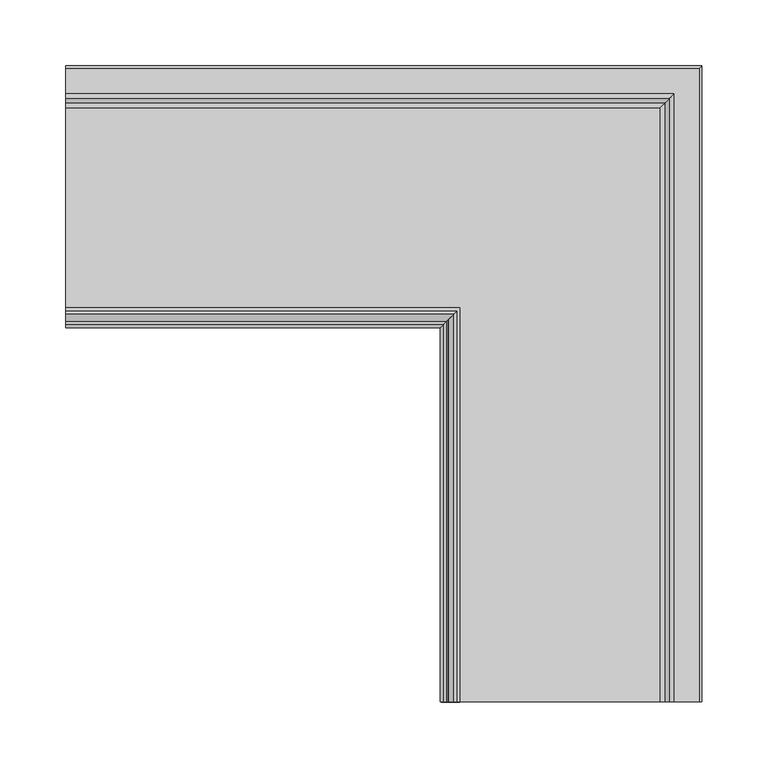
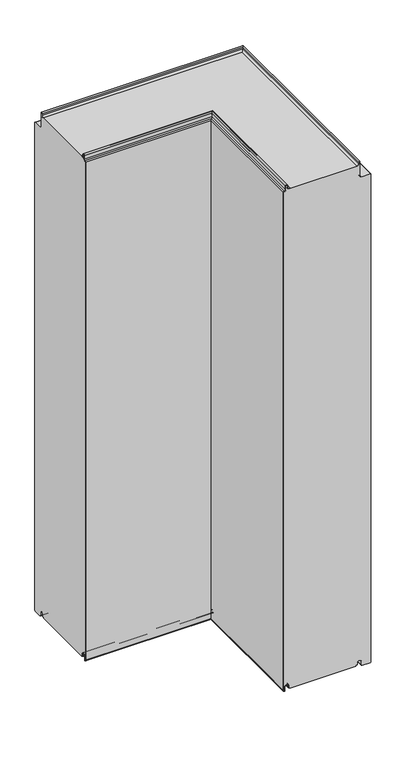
"""IFC4 building model written with IfcOpenShell, lengths in millimetres: plate geometry, Угловой модуль Fronttop : Угловой модуль Fronttop 200/1200."""

from ifc_helpers import new_model, si_unit, frame, origin, place, context, project, spatial, polyline, circle_curve, ellipse_curve, source, transform, mapped, element, save
from ifc_brep_helpers import plane_surface, cylinder_surface, revolved_surface, advanced_brep


def plate_f44200e2(model_context):
    return source(origin(), model_context, "Body", "AdvancedBrep", [
        advanced_brep(
        [(-234.5, 15.0, 3.0), (-234.5, 13.0, 3.0), (-234.5, 12.0, 4.0), (-234.5, 12.0, 8.0), (-234.5, 3.0, 8.0), (-234.5, 3.0, -0.5), (-234.5, 1.0, -0.5), (-234.5, 1.0, 1195.0278643), (-234.5, 2.1111111, 1196.0216723), (-234.5, 6.0, 1199.5), (-234.5, 6.0, 1208.0), (-234.5, 9.0, 1208.0), (-234.5, 9.0, 1204.0), (-234.5, 13.0, 1200.0), (-234.5, 167.0, 1200.0), (-234.5, 171.0, 1204.0), (-234.5, 171.0, 1208.0), (-234.5, 174.0, 1208.0), (-234.5, 174.0, 1175.0), (-234.5, 178.0, 1171.0), (-234.5, 197.0, 1171.0), (-234.5, 199.0, 1169.0), (-234.5, 199.0, 0.0), (-234.5, 197.0, -2.0), (-234.5, 179.0, -2.0), (-234.5, 177.0, 0.0), (-234.5, 177.0, 8.0), (-234.5, 168.0, 8.0), (-234.5, 168.0, 4.0), (-234.5, 167.0, 3.0), (-234.5, 165.0, 3.0), (-234.5, 165.0, 0.0), (-234.5, 15.0, 0.0), (65.0, 15.0, 0.0), (65.0, 15.0, 3.0), (215.0, 165.0, 0.0), (215.0, -284.5, 0.0), (65.0, -284.5, 0.0), (215.0, 165.0, 3.0), (217.0, 167.0, 3.0), (217.0, -284.5, 3.0), (215.0, -284.5, 3.0), (218.0, 168.0, 4.0), (218.0, 168.0, 8.0), (227.0, 177.0, 8.0), (227.0, 177.0, 0.0), (229.0, 179.0, -2.0), (247.0, 197.0, -2.0), (247.0, -284.5, -2.0), (229.0, -284.5, -2.0), (249.0, 199.0, 0.0), (249.0, 199.0, 1169.0), (247.0, 197.0, 1171.0), (228.0, 178.0, 1171.0), (228.0, -284.5, 1171.0), (247.0, -284.5, 1171.0), (224.0, 174.0, 1175.0), (224.0, 174.0, 1208.0), (221.0, 171.0, 1208.0), (221.0, 171.0, 1204.0), (217.0, 167.0, 1200.0), (63.0, 13.0, 1200.0), (63.0, -284.5, 1200.0), (217.0, -284.5, 1200.0), (59.0, 9.0, 1204.0), (59.0, 9.0, 1208.0), (56.0, 6.0, 1208.0), (56.0, 6.0, 1199.5), (52.1111111, 2.1111111, 1196.021672), (51.0, 1.0, 1195.0278643), (51.0, 1.0, -0.5), (53.0, 3.0, -0.5), (53.0, 3.0, 8.0), (62.0, 12.0, 8.0), (62.0, 12.0, 4.0), (63.0, 13.0, 3.0), (65.0, -284.5, 3.0), (63.0, -284.5, 3.0), (218.0, -284.5, 4.0), (218.0, -284.5, 8.0), (227.0, -284.5, 8.0), (227.0, -284.5, 0.0), (249.0, -284.5, 0.0), (249.0, -284.5, 1169.0), (224.0, -284.5, 1175.0), (224.0, -284.5, 1208.0), (221.0, -284.5, 1208.0), (221.0, -284.5, 1204.0), (59.0, -284.5, 1204.0), (59.0, -284.5, 1208.0), (56.0, -284.5, 1208.0), (56.0, -284.5, 1199.5), (52.1111111, -284.5, 1196.021672), (51.0, -284.5, 1195.0278643), (51.0, -284.5, -0.5), (53.0, -284.5, -0.5), (53.0, -284.5, 8.0), (62.0, -284.5, 8.0), (62.0, -284.5, 4.0)],
        [
            (0, 1),
            (1, 2, circle_curve(frame((-234.5, 13.0, 4.0), z_axis=(-1.0, 0.0, 0.0), x_axis=(0.0, -1.0, 0.0)), 1.0)),
            (2, 3),
            (3, 4, circle_curve(frame((-234.5, 7.5, 8.0), z_axis=(1.0, 0.0, 0.0), x_axis=(0.0, -1.0, 0.0)), 4.5)),
            (4, 5),
            (5, 6, circle_curve(frame((-234.5, 2.0, -0.5), z_axis=(-1.0, 0.0, 0.0), x_axis=(0.0, -1.0, 0.0)), 1.0)),
            (6, 7),
            (7, 8, circle_curve(frame((-234.5, 2.0, 1195.0278643), z_axis=(-1.0, 0.0, 0.0), x_axis=(0.0, -1.0, 0.0)), 1.0)),
            (8, 9, circle_curve(frame((-234.5, 2.5, 1199.5), z_axis=(1.0, 0.0, 0.0), x_axis=(0.0, -1.0, 0.0)), 3.5)),
            (9, 10),
            (10, 11, circle_curve(frame((-234.5, 7.5, 1208.0), z_axis=(-1.0, 0.0, 0.0), x_axis=(0.0, -1.0, 0.0)), 1.5)),
            (11, 12),
            (12, 13, circle_curve(frame((-234.5, 13.0, 1204.0), z_axis=(1.0, 0.0, 0.0), x_axis=(0.0, -1.0, 0.0)), 4.0)),
            (13, 14),
            (14, 15, circle_curve(frame((-234.5, 167.0, 1204.0), z_axis=(1.0, 0.0, 0.0), x_axis=(0.0, -1.0, 0.0)), 4.0)),
            (15, 16),
            (16, 17, circle_curve(frame((-234.5, 172.5, 1208.0), z_axis=(-1.0, 0.0, 0.0), x_axis=(0.0, -1.0, 0.0)), 1.5)),
            (17, 18),
            (18, 19, circle_curve(frame((-234.5, 178.0, 1175.0), z_axis=(1.0, 0.0, 0.0), x_axis=(0.0, -1.0, 0.0)), 4.0)),
            (19, 20),
            (20, 21, circle_curve(frame((-234.5, 197.0, 1169.0), z_axis=(-1.0, 0.0, 0.0), x_axis=(0.0, -1.0, 0.0)), 2.0)),
            (21, 22),
            (22, 23, circle_curve(frame((-234.5, 197.0, 0.0), z_axis=(-1.0, 0.0, 0.0), x_axis=(0.0, -1.0, 0.0)), 2.0)),
            (23, 24),
            (24, 25, circle_curve(frame((-234.5, 179.0, 0.0), z_axis=(-1.0, 0.0, 0.0), x_axis=(0.0, -1.0, 0.0)), 2.0)),
            (25, 26),
            (26, 27, circle_curve(frame((-234.5, 172.5, 8.0), z_axis=(1.0, 0.0, 0.0), x_axis=(0.0, -1.0, 0.0)), 4.5)),
            (27, 28),
            (28, 29, circle_curve(frame((-234.5, 167.0, 4.0), z_axis=(-1.0, 0.0, 0.0), x_axis=(0.0, -1.0, 0.0)), 1.0)),
            (29, 30),
            (30, 31),
            (31, 32),
            (32, 0),
            (32, 33),
            (33, 34),
            (34, 0),
            (31, 35),
            (35, 36),
            (36, 37),
            (37, 33),
            (30, 38),
            (38, 35),
            (29, 39),
            (39, 40),
            (40, 41),
            (41, 38),
            (28, 42),
            (42, 39, ellipse_curve(frame((217.0, 167.0, 4.0), z_axis=(-0.7071067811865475, 0.7071067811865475, 0.0), x_axis=(-0.7071067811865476, -0.7071067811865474, 0.0)), 1.4142136, 1.0)),
            (27, 43),
            (43, 42),
            (26, 44),
            (44, 43, ellipse_curve(frame((222.5, 172.5, 8.0), z_axis=(0.7071067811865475, -0.7071067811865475, 0.0), x_axis=(0.7071067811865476, 0.7071067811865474, 0.0)), 6.363961, 4.5)),
            (25, 45),
            (45, 44),
            (24, 46),
            (46, 45, ellipse_curve(frame((229.0, 179.0, 0.0), z_axis=(-0.7071067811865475, 0.7071067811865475, 0.0), x_axis=(-0.7071067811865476, -0.7071067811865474, 0.0)), 2.8284271, 2.0)),
            (23, 47),
            (47, 48),
            (48, 49),
            (49, 46),
            (22, 50),
            (50, 47, ellipse_curve(frame((247.0, 197.0, 0.0), z_axis=(-0.7071067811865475, 0.7071067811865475, 0.0), x_axis=(-0.7071067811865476, -0.7071067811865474, 0.0)), 2.8284271, 2.0)),
            (21, 51),
            (51, 50),
            (20, 52),
            (52, 51, ellipse_curve(frame((247.0, 197.0, 1169.0), z_axis=(-0.7071067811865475, 0.7071067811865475, 0.0), x_axis=(-0.7071067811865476, -0.7071067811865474, 0.0)), 2.8284271, 2.0)),
            (19, 53),
            (53, 54),
            (54, 55),
            (55, 52),
            (18, 56),
            (56, 53, ellipse_curve(frame((228.0, 178.0, 1175.0), z_axis=(0.7071067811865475, -0.7071067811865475, 0.0), x_axis=(0.7071067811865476, 0.7071067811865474, 0.0)), 5.6568542, 4.0)),
            (17, 57),
            (57, 56),
            (16, 58),
            (58, 57, ellipse_curve(frame((222.5, 172.5, 1208.0), z_axis=(-0.7071067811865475, 0.7071067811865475, 0.0), x_axis=(-0.7071067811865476, -0.7071067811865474, 0.0)), 2.1213203, 1.5)),
            (15, 59),
            (59, 58),
            (14, 60),
            (60, 59, ellipse_curve(frame((217.0, 167.0, 1204.0), z_axis=(0.7071067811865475, -0.7071067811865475, 0.0), x_axis=(0.7071067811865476, 0.7071067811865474, 0.0)), 5.6568542, 4.0)),
            (13, 61),
            (61, 62),
            (62, 63),
            (63, 60),
            (12, 64),
            (64, 61, ellipse_curve(frame((63.0, 13.0, 1204.0), z_axis=(0.7071067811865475, -0.7071067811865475, 0.0), x_axis=(0.7071067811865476, 0.7071067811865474, 0.0)), 5.6568542, 4.0)),
            (11, 65),
            (65, 64),
            (10, 66),
            (66, 65, ellipse_curve(frame((57.5, 7.5, 1208.0), z_axis=(-0.7071067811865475, 0.7071067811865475, 0.0), x_axis=(-0.7071067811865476, -0.7071067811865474, 0.0)), 2.1213204, 1.5)),
            (9, 67),
            (67, 66),
            (8, 68),
            (68, 67, ellipse_curve(frame((52.5, 2.5, 1199.5), z_axis=(0.7071067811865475, -0.7071067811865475, 0.0), x_axis=(0.7071067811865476, 0.7071067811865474, 0.0)), 4.9497475, 3.5)),
            (7, 69),
            (69, 68, ellipse_curve(frame((52.0, 2.0, 1195.0278643), z_axis=(-0.7071067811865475, 0.7071067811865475, 0.0), x_axis=(-0.7071067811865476, -0.7071067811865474, 0.0)), 1.4142136, 1.0)),
            (6, 70),
            (70, 69),
            (5, 71),
            (71, 70, ellipse_curve(frame((52.0, 2.0, -0.5), z_axis=(-0.7071067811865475, 0.7071067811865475, 0.0), x_axis=(-0.7071067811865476, -0.7071067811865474, 0.0)), 1.4142136, 1.0)),
            (4, 72),
            (72, 71),
            (3, 73),
            (73, 72, ellipse_curve(frame((57.5, 7.5, 8.0), z_axis=(0.7071067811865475, -0.7071067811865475, 0.0), x_axis=(0.7071067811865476, 0.7071067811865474, 0.0)), 6.363961, 4.5)),
            (2, 74),
            (74, 73),
            (1, 75),
            (75, 74, ellipse_curve(frame((63.0, 13.0, 4.0), z_axis=(-0.7071067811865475, 0.7071067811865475, 0.0), x_axis=(-0.7071067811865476, -0.7071067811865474, 0.0)), 1.4142136, 1.0)),
            (34, 76),
            (76, 77),
            (77, 75),
            (76, 37),
            (36, 41),
            (40, 78, circle_curve(frame((217.0, -284.5, 4.0), z_axis=(0.0, -1.0, 0.0), x_axis=(-1.0, 0.0, 0.0)), 1.0)),
            (78, 79),
            (79, 80, circle_curve(frame((222.5, -284.5, 8.0), z_axis=(0.0, 1.0, 0.0), x_axis=(-1.0, 0.0, 0.0)), 4.5)),
            (80, 81),
            (81, 49, circle_curve(frame((229.0, -284.5, 0.0), z_axis=(0.0, -1.0, 0.0), x_axis=(-1.0, 0.0, 0.0)), 2.0)),
            (48, 82, circle_curve(frame((247.0, -284.5, 0.0), z_axis=(0.0, -1.0, 0.0), x_axis=(-1.0, 0.0, 0.0)), 2.0)),
            (82, 83),
            (83, 55, circle_curve(frame((247.0, -284.5, 1169.0), z_axis=(0.0, -1.0, 0.0), x_axis=(-1.0, 0.0, 0.0)), 2.0)),
            (54, 84, circle_curve(frame((228.0, -284.5, 1175.0), z_axis=(0.0, 1.0, 0.0), x_axis=(-1.0, 0.0, 0.0)), 4.0)),
            (84, 85),
            (85, 86, circle_curve(frame((222.5, -284.5, 1208.0), z_axis=(0.0, -1.0, 0.0), x_axis=(-1.0, 0.0, 0.0)), 1.5)),
            (86, 87),
            (87, 63, circle_curve(frame((217.0, -284.5, 1204.0), z_axis=(0.0, 1.0, 0.0), x_axis=(-1.0, 0.0, 0.0)), 4.0)),
            (62, 88, circle_curve(frame((63.0, -284.5, 1204.0), z_axis=(0.0, 1.0, 0.0), x_axis=(-1.0, 0.0, 0.0)), 4.0)),
            (88, 89),
            (89, 90, circle_curve(frame((57.5, -284.5, 1208.0), z_axis=(0.0, -1.0, 0.0), x_axis=(-1.0, 0.0, 0.0)), 1.5)),
            (90, 91),
            (91, 92, circle_curve(frame((52.5, -284.5, 1199.5), z_axis=(0.0, 1.0, 0.0), x_axis=(-1.0, 0.0, 0.0)), 3.5)),
            (92, 93, circle_curve(frame((52.0, -284.5, 1195.0278643), z_axis=(0.0, -1.0, 0.0), x_axis=(-1.0, 0.0, 0.0)), 1.0)),
            (93, 94),
            (94, 95, circle_curve(frame((52.0, -284.5, -0.5), z_axis=(0.0, -1.0, 0.0), x_axis=(-1.0, 0.0, 0.0)), 1.0)),
            (95, 96),
            (96, 97, circle_curve(frame((57.5, -284.5, 8.0), z_axis=(0.0, 1.0, 0.0), x_axis=(-1.0, 0.0, 0.0)), 4.5)),
            (97, 98),
            (98, 77, circle_curve(frame((63.0, -284.5, 4.0), z_axis=(0.0, -1.0, 0.0), x_axis=(-1.0, 0.0, 0.0)), 1.0)),
            (42, 78),
            (43, 79),
            (44, 80),
            (45, 81),
            (50, 82),
            (51, 83),
            (56, 84),
            (57, 85),
            (58, 86),
            (59, 87),
            (64, 88),
            (65, 89),
            (66, 90),
            (67, 91),
            (68, 92),
            (69, 93),
            (70, 94),
            (71, 95),
            (72, 96),
            (73, 97),
            (74, 98),
        ],
        [
            plane_surface(frame((-234.5, 0.0, 0.0), z_axis=(-1.0, 0.0, 0.0), x_axis=(0.0, 0.0, 1.0))),
            plane_surface(frame((-234.5, 15.0, 0.0), z_axis=(0.0, -1.0, 0.0), x_axis=(1.0, 0.0, 0.0))),
            plane_surface(frame((-234.5, 165.0, 0.0), z_axis=(0.0, 0.0, -1.0), x_axis=(1.0, 0.0, 0.0))),
            plane_surface(frame((-234.5, 165.0, 3.0), z_axis=(0.0, 1.0, 0.0), x_axis=(1.0, 0.0, 0.0))),
            plane_surface(frame((-234.5, 167.0, 3.0), z_axis=(0.0, 0.0, -1.0), x_axis=(1.0, 0.0, 0.0))),
            cylinder_surface(frame((-234.5, 167.0, 4.0), z_axis=(-1.0, 0.0, 0.0), x_axis=(0.0, -1.0, 0.0)), 1.0),
            plane_surface(frame((-234.5, 168.0, 8.0), z_axis=(0.0, 1.0, 0.0), x_axis=(1.0, 0.0, 0.0))),
            revolved_surface(polyline([(227.0, 168.0, 8.0), (-234.5, 168.0, 8.0)]), (-234.5, 172.5, 8.0), (1.0, 0.0, 0.0)),
            plane_surface(frame((-234.5, 177.0, 0.0), z_axis=(0.0, -1.0, 0.0), x_axis=(1.0, 0.0, 0.0))),
            cylinder_surface(frame((-234.5, 179.0, 0.0), z_axis=(-1.0, 0.0, 0.0), x_axis=(0.0, -1.0, 0.0)), 2.0),
            plane_surface(frame((-234.5, 197.0, -2.0), z_axis=(0.0, 0.0, -1.0), x_axis=(1.0, 0.0, 0.0))),
            cylinder_surface(frame((-234.5, 197.0, 0.0), z_axis=(-1.0, 0.0, 0.0), x_axis=(0.0, -1.0, 0.0)), 2.0),
            plane_surface(frame((-234.5, 199.0, 1169.0), z_axis=(0.0, 1.0, 0.0), x_axis=(1.0, 0.0, 0.0))),
            cylinder_surface(frame((-234.5, 197.0, 1169.0), z_axis=(-1.0, 0.0, 0.0), x_axis=(0.0, -1.0, 0.0)), 2.0),
            plane_surface(frame((-234.5, 178.0, 1171.0), z_axis=(0.0, 0.0, 1.0), x_axis=(1.0, 0.0, 0.0))),
            revolved_surface(polyline([(231.9999999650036, 174.0, 1175.0), (-234.5, 174.0, 1175.0)]), (-234.5, 178.0, 1175.0), (1.0, 0.0, 0.0)),
            plane_surface(frame((-234.5, 174.0, 1208.0), z_axis=(0.0, 1.0, 0.0), x_axis=(1.0, 0.0, 0.0))),
            cylinder_surface(frame((-234.5, 172.5, 1208.0), z_axis=(-1.0, 0.0, 0.0), x_axis=(0.0, -1.0, 0.0)), 1.5),
            plane_surface(frame((-234.5, 171.0, 1204.0), z_axis=(0.0, -1.0, 0.0), x_axis=(1.0, 0.0, 0.0))),
            revolved_surface(polyline([(221.0, 163.0, 1204.0), (-234.5, 163.0, 1204.0)]), (-234.5, 167.0, 1204.0), (1.0, 0.0, 0.0)),
            plane_surface(frame((-234.5, 13.0, 1200.0), z_axis=(0.0, 0.0, 1.0), x_axis=(1.0, 0.0, 0.0))),
            revolved_surface(polyline([(66.99999996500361, 9.0, 1204.0), (-234.5, 9.0, 1204.0)]), (-234.5, 13.0, 1204.0), (1.0, 0.0, 0.0)),
            plane_surface(frame((-234.5, 9.0, 1208.0), z_axis=(0.0, 1.0, 0.0), x_axis=(1.0, 0.0, 0.0))),
            cylinder_surface(frame((-234.5, 7.5, 1208.0), z_axis=(-1.0, 0.0, 0.0), x_axis=(0.0, -1.0, 0.0)), 1.5),
            plane_surface(frame((-234.5, 6.0, 1199.5), z_axis=(0.0, -1.0, 0.0), x_axis=(1.0, 0.0, 0.0))),
            revolved_surface(polyline([(56.00000002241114, -1.0, 1199.5), (-234.5, -1.0, 1199.5)]), (-234.5, 2.5, 1199.5), (1.0, 0.0, 0.0)),
            cylinder_surface(frame((-234.5, 2.0, 1195.0278643), z_axis=(-1.0, 0.0, 0.0), x_axis=(0.0, -1.0, 0.0)), 1.0),
            plane_surface(frame((-234.5, 1.0, -0.5), z_axis=(0.0, -1.0, 0.0), x_axis=(1.0, 0.0, 0.0))),
            cylinder_surface(frame((-234.5, 2.0, -0.5), z_axis=(-1.0, 0.0, 0.0), x_axis=(0.0, -1.0, 0.0)), 1.0),
            plane_surface(frame((-234.5, 3.0, 8.0), z_axis=(0.0, 1.0, 0.0), x_axis=(1.0, 0.0, 0.0))),
            revolved_surface(polyline([(62.0, 3.0, 8.0), (-234.5, 3.0, 8.0)]), (-234.5, 7.5, 8.0), (1.0, 0.0, 0.0)),
            plane_surface(frame((-234.5, 12.0, 4.0), z_axis=(0.0, -1.0, 0.0), x_axis=(1.0, 0.0, 0.0))),
            cylinder_surface(frame((-234.5, 13.0, 4.0), z_axis=(-1.0, 0.0, 0.0), x_axis=(0.0, -1.0, 0.0)), 1.0),
            plane_surface(frame((-234.5, 15.0, 3.0), z_axis=(0.0, 0.0, -1.0), x_axis=(1.0, 0.0, 0.0))),
            plane_surface(frame((50.0, -284.5, 0.0), z_axis=(0.0, -1.0, 0.0), x_axis=(0.0, 0.0, 1.0))),
            plane_surface(frame((65.0, 15.0, 0.0), z_axis=(-1.0, 0.0, 0.0), x_axis=(0.0, -1.0, 0.0))),
            plane_surface(frame((215.0, 165.0, 3.0), z_axis=(1.0, 0.0, 0.0), x_axis=(0.0, -1.0, 0.0))),
            cylinder_surface(frame((217.0, 0.0, 4.0), z_axis=(0.0, 1.0, 0.0), x_axis=(-1.0, 0.0, 0.0)), 1.0),
            plane_surface(frame((218.0, 168.0, 8.0), z_axis=(1.0, 0.0, 0.0), x_axis=(0.0, -1.0, 0.0))),
            revolved_surface(polyline([(218.0, -284.5, 8.0), (218.0, 177.0, 8.0)]), (222.5, 0.0, 8.0), (0.0, -1.0, 0.0)),
            plane_surface(frame((227.0, 177.0, 0.0), z_axis=(-1.0, 0.0, 0.0), x_axis=(0.0, -1.0, 0.0))),
            cylinder_surface(frame((229.0, 0.0, 0.0), z_axis=(0.0, 1.0, 0.0), x_axis=(-1.0, 0.0, 0.0)), 2.0),
            cylinder_surface(frame((247.0, 0.0, 0.0), z_axis=(0.0, 1.0, 0.0), x_axis=(-1.0, 0.0, 0.0)), 2.0),
            plane_surface(frame((249.0, 199.0, 1169.0), z_axis=(1.0, 0.0, 0.0), x_axis=(0.0, -1.0, 0.0))),
            cylinder_surface(frame((247.0, 0.0, 1169.0), z_axis=(0.0, 1.0, 0.0), x_axis=(-1.0, 0.0, 0.0)), 2.0),
            revolved_surface(polyline([(224.0, -284.5, 1175.0), (224.0, 181.9999999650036, 1175.0)]), (228.0, 0.0, 1175.0), (0.0, -1.0, 0.0)),
            plane_surface(frame((224.0, 174.0, 1208.0), z_axis=(1.0, 0.0, 0.0), x_axis=(0.0, -1.0, 0.0))),
            cylinder_surface(frame((222.5, 0.0, 1208.0), z_axis=(0.0, 1.0, 0.0), x_axis=(-1.0, 0.0, 0.0)), 1.5),
            plane_surface(frame((221.0, 171.0, 1204.0), z_axis=(-1.0, 0.0, 0.0), x_axis=(0.0, -1.0, 0.0))),
            revolved_surface(polyline([(213.0, -284.5, 1204.0), (213.0, 171.0, 1204.0)]), (217.0, 0.0, 1204.0), (0.0, -1.0, 0.0)),
            revolved_surface(polyline([(59.0, -284.5, 1204.0), (59.0, 16.999999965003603, 1204.0)]), (63.0, 0.0, 1204.0), (0.0, -1.0, 0.0)),
            plane_surface(frame((59.0, 9.0, 1208.0), z_axis=(1.0, 0.0, 0.0), x_axis=(0.0, -1.0, 0.0))),
            cylinder_surface(frame((57.5, 0.0, 1208.0), z_axis=(0.0, 1.0, 0.0), x_axis=(-1.0, 0.0, 0.0)), 1.5),
            plane_surface(frame((56.0, 6.0, 1199.5), z_axis=(-1.0, 0.0, 0.0), x_axis=(0.0, -1.0, 0.0))),
            revolved_surface(polyline([(49.0, -284.5, 1199.5), (49.0, 6.000000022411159, 1199.5)]), (52.5, 0.0, 1199.5), (0.0, -1.0, 0.0)),
            cylinder_surface(frame((52.0, 0.0, 1195.0278643), z_axis=(0.0, 1.0, 0.0), x_axis=(-1.0, 0.0, 0.0)), 1.0),
            plane_surface(frame((51.0, 1.0, -0.5), z_axis=(-1.0, 0.0, 0.0), x_axis=(0.0, -1.0, 0.0))),
            cylinder_surface(frame((52.0, 0.0, -0.5), z_axis=(0.0, 1.0, 0.0), x_axis=(-1.0, 0.0, 0.0)), 1.0),
            plane_surface(frame((53.0, 3.0, 8.0), z_axis=(1.0, 0.0, 0.0), x_axis=(0.0, -1.0, 0.0))),
            revolved_surface(polyline([(53.0, -284.5, 8.0), (53.0, 12.0, 8.0)]), (57.5, 0.0, 8.0), (0.0, -1.0, 0.0)),
            plane_surface(frame((62.0, 12.0, 4.0), z_axis=(-1.0, 0.0, 0.0), x_axis=(0.0, -1.0, 0.0))),
            cylinder_surface(frame((63.0, 0.0, 4.0), z_axis=(0.0, 1.0, 0.0), x_axis=(-1.0, 0.0, 0.0)), 1.0),
        ],
        [
            (0, [[1, 2, 3, 4, 5, 6, 7, 8, 9, 10, 11, 12, 13, 14, 15, 16, 17, 18, 19, 20, 21, 22, 23, 24, 25, 26, 27, 28, 29, 30, 31, 32, 33]]),
            (1, [[-33, 34, 35, 36]]),
            (2, [[-32, 37, 38, 39, 40, -34]]),
            (3, [[-31, 41, 42, -37]]),
            (4, [[-30, 43, 44, 45, 46, -41]]),
            (5, [[-29, 47, 48, -43]]),
            (6, [[-28, 49, 50, -47]]),
            (7, [[-27, 51, 52, -49]]),
            (8, [[-26, 53, 54, -51]]),
            (9, [[-25, 55, 56, -53]]),
            (10, [[-24, 57, 58, 59, 60, -55]]),
            (11, [[-23, 61, 62, -57]]),
            (12, [[-22, 63, 64, -61]]),
            (13, [[-21, 65, 66, -63]]),
            (14, [[-20, 67, 68, 69, 70, -65]]),
            (15, [[-19, 71, 72, -67]]),
            (16, [[-18, 73, 74, -71]]),
            (17, [[-17, 75, 76, -73]]),
            (18, [[-16, 77, 78, -75]]),
            (19, [[-15, 79, 80, -77]]),
            (20, [[-14, 81, 82, 83, 84, -79]]),
            (21, [[-13, 85, 86, -81]]),
            (22, [[-12, 87, 88, -85]]),
            (23, [[-11, 89, 90, -87]]),
            (24, [[-10, 91, 92, -89]]),
            (25, [[-9, 93, 94, -91]]),
            (26, [[-8, 95, 96, -93]]),
            (27, [[-7, 97, 98, -95]]),
            (28, [[-6, 99, 100, -97]]),
            (29, [[-5, 101, 102, -99]]),
            (30, [[-4, 103, 104, -101]]),
            (31, [[-3, 105, 106, -103]]),
            (32, [[-2, 107, 108, -105]]),
            (33, [[-1, -36, 109, 110, 111, -107]]),
            (34, [[112, -39, 113, -45, 114, 115, 116, 117, 118, -59, 119, 120, 121, -69, 122, 123, 124, 125, 126, -83, 127, 128, 129, 130, 131, 132, 133, 134, 135, 136, 137, 138, -110]]),
            (35, [[-35, -40, -112, -109]]),
            (36, [[-42, -46, -113, -38]]),
            (37, [[-48, 139, -114, -44]]),
            (38, [[-50, 140, -115, -139]]),
            (39, [[-52, 141, -116, -140]]),
            (40, [[-54, 142, -117, -141]]),
            (41, [[-56, -60, -118, -142]]),
            (42, [[-62, 143, -119, -58]]),
            (43, [[-64, 144, -120, -143]]),
            (44, [[-66, -70, -121, -144]]),
            (45, [[-72, 145, -122, -68]]),
            (46, [[-74, 146, -123, -145]]),
            (47, [[-76, 147, -124, -146]]),
            (48, [[-78, 148, -125, -147]]),
            (49, [[-80, -84, -126, -148]]),
            (50, [[-86, 149, -127, -82]]),
            (51, [[-88, 150, -128, -149]]),
            (52, [[-90, 151, -129, -150]]),
            (53, [[-92, 152, -130, -151]]),
            (54, [[-94, 153, -131, -152]]),
            (55, [[-96, 154, -132, -153]]),
            (56, [[-98, 155, -133, -154]]),
            (57, [[-100, 156, -134, -155]]),
            (58, [[-102, 157, -135, -156]]),
            (59, [[-104, 158, -136, -157]]),
            (60, [[-106, 159, -137, -158]]),
            (61, [[-108, -111, -138, -159]]),
        ],
    ),
        advanced_brep(
        [(-234.5, 13.0, 1201.0), (-234.5, 15.0, 1201.0), (-234.5, 15.0, 1200.0), (-234.5, 13.0, 1200.0), (-234.5, 9.0, 1204.0), (-234.5, 9.0, 1208.0), (-234.5, 6.0, 1208.0), (-234.5, 6.0, 1199.5), (-234.5, 2.1134897, 1196.0214069), (-234.5, 1.0, 1195.0), (-234.5, 1.0, -0.5), (-234.5, 3.0, -0.5), (-234.5, 3.0, 8.0), (-234.5, 12.0, 8.0), (-234.5, 12.0, 4.0), (-234.5, 13.0, 3.0), (-234.5, 15.0, 3.0), (-234.5, 15.0, 2.0), (-234.5, 13.0, 2.0), (-234.5, 11.0, 4.0), (-234.5, 11.0, 8.0), (-234.5, 4.0, 8.0), (-234.5, 4.0, -0.5), (-234.5, 0.0, -0.5), (-234.5, 0.0, 1195.0), (-234.5, 2.220863, 1196.9877675), (-234.5, 5.0, 1199.5), (-234.5, 5.0, 1208.0), (-234.5, 10.0, 1208.0), (-234.5, 10.0, 1204.0), (63.0, 13.0, 1201.0), (63.0, -284.5, 1201.0), (65.0, -284.5, 1201.0), (65.0, 15.0, 1201.0), (65.0, 15.0, 1200.0), (65.0, -284.5, 1200.0), (63.0, -284.5, 1200.0), (63.0, 13.0, 1200.0), (59.0, 9.0, 1204.0), (59.0, 9.0, 1208.0), (56.0, 6.0, 1208.0), (56.0, 6.0, 1199.5), (52.1134897, 2.1134897, 1196.0214069), (51.0, 1.0, 1195.0), (51.0, 1.0, -0.5), (53.0, 3.0, -0.5), (53.0, 3.0, 8.0), (62.0, 12.0, 8.0), (62.0, 12.0, 4.0), (63.0, 13.0, 3.0), (63.0, -284.5, 3.0), (65.0, -284.5, 3.0), (65.0, 15.0, 3.0), (65.0, 15.0, 2.0), (65.0, -284.5, 2.0), (63.0, -284.5, 2.0), (63.0, 13.0, 2.0), (61.0, 11.0, 4.0), (61.0, 11.0, 8.0), (54.0, 4.0, 8.0), (54.0, 4.0, -0.5), (50.0, 0.0, -0.5), (50.0, 0.0, 1195.0), (52.220863, 2.220863, 1196.9877675), (55.0, 5.0, 1199.5), (55.0, 5.0, 1208.0), (60.0, 10.0, 1208.0), (60.0, 10.0, 1204.0), (60.0, -284.5, 1204.0), (60.0, -284.5, 1208.0), (55.0, -284.5, 1208.0), (55.0, -284.5, 1199.5), (52.2239212, -284.5, 1197.0152907), (50.0, -284.5, 1195.0), (50.0, -284.5, -0.5), (54.0, -284.5, -0.5), (54.0, -284.5, 8.0), (61.0, -284.5, 8.0), (61.0, -284.5, 4.0), (62.0, -284.5, 4.0), (62.0, -284.5, 8.0), (53.0, -284.5, 8.0), (53.0, -284.5, -0.5), (51.0, -284.5, -0.5), (51.0, -284.5, 1195.0), (52.1104315, -284.5, 1195.9938837), (56.0, -284.5, 1199.5), (56.0, -284.5, 1208.0), (59.0, -284.5, 1208.0), (59.0, -284.5, 1204.0)],
        [
            (0, 1),
            (1, 2),
            (2, 3),
            (3, 4, circle_curve(frame((-234.5, 13.0, 1204.0), z_axis=(-1.0, 0.0, 0.0), x_axis=(0.0, -1.0, 0.0)), 4.0)),
            (4, 5),
            (5, 6, circle_curve(frame((-234.5, 7.5, 1208.0), z_axis=(1.0, 0.0, 0.0), x_axis=(0.0, -1.0, 0.0)), 1.5)),
            (6, 7),
            (7, 8, circle_curve(frame((-234.5, 2.5, 1199.5), z_axis=(-1.0, 0.0, 0.0), x_axis=(0.0, -1.0, 0.0)), 3.5)),
            (8, 9, circle_curve(frame((-234.5, 2.0, 1195.0), z_axis=(1.0, 0.0, 0.0), x_axis=(0.0, -1.0, 0.0)), 1.0)),
            (9, 10),
            (10, 11, circle_curve(frame((-234.5, 2.0, -0.5), z_axis=(1.0, 0.0, 0.0), x_axis=(0.0, -1.0, 0.0)), 1.0)),
            (11, 12),
            (12, 13, circle_curve(frame((-234.5, 7.5, 8.0), z_axis=(-1.0, 0.0, 0.0), x_axis=(0.0, -1.0, 0.0)), 4.5)),
            (13, 14),
            (14, 15, circle_curve(frame((-234.5, 13.0, 4.0), z_axis=(1.0, 0.0, 0.0), x_axis=(0.0, -1.0, 0.0)), 1.0)),
            (15, 16),
            (16, 17),
            (17, 18),
            (18, 19, circle_curve(frame((-234.5, 13.0, 4.0), z_axis=(-1.0, 0.0, 0.0), x_axis=(0.0, -1.0, 0.0)), 2.0)),
            (19, 20),
            (20, 21, circle_curve(frame((-234.5, 7.5, 8.0), z_axis=(1.0, 0.0, 0.0), x_axis=(0.0, -1.0, 0.0)), 3.5)),
            (21, 22),
            (22, 23, circle_curve(frame((-234.5, 2.0, -0.5), z_axis=(-1.0, 0.0, 0.0), x_axis=(0.0, -1.0, 0.0)), 2.0)),
            (23, 24),
            (24, 25, circle_curve(frame((-234.5, 2.0, 1195.0), z_axis=(-1.0, 0.0, 0.0), x_axis=(0.0, -1.0, 0.0)), 2.0)),
            (25, 26, circle_curve(frame((-234.5, 2.5, 1199.5), z_axis=(1.0, 0.0, 0.0), x_axis=(0.0, -1.0, 0.0)), 2.5)),
            (26, 27),
            (27, 28, circle_curve(frame((-234.5, 7.5, 1208.0), z_axis=(-1.0, 0.0, 0.0), x_axis=(0.0, -1.0, 0.0)), 2.5)),
            (28, 29),
            (29, 0, circle_curve(frame((-234.5, 13.0, 1204.0), z_axis=(1.0, 0.0, 0.0), x_axis=(0.0, -1.0, 0.0)), 3.0)),
            (0, 30),
            (30, 31),
            (31, 32),
            (32, 33),
            (33, 1),
            (33, 34),
            (34, 2),
            (34, 35),
            (35, 36),
            (36, 37),
            (37, 3),
            (37, 38, ellipse_curve(frame((63.0, 13.0, 1204.0), z_axis=(-0.7071067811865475, 0.7071067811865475, 0.0), x_axis=(-0.7071067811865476, -0.7071067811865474, 0.0)), 5.6568542, 4.0)),
            (38, 4),
            (38, 39),
            (39, 5),
            (39, 40, ellipse_curve(frame((57.5, 7.5, 1208.0), z_axis=(0.7071067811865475, -0.7071067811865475, 0.0), x_axis=(0.7071067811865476, 0.7071067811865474, 0.0)), 2.1213204, 1.5)),
            (40, 6),
            (40, 41),
            (41, 7),
            (41, 42, ellipse_curve(frame((52.5, 2.5, 1199.5), z_axis=(-0.7071067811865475, 0.7071067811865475, 0.0), x_axis=(-0.7071067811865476, -0.7071067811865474, 0.0)), 4.9497475, 3.5)),
            (42, 8),
            (42, 43, ellipse_curve(frame((52.0, 2.0, 1195.0), z_axis=(0.7071067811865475, -0.7071067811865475, 0.0), x_axis=(0.7071067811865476, 0.7071067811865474, 0.0)), 1.4142136, 1.0)),
            (43, 9),
            (43, 44),
            (44, 10),
            (44, 45, ellipse_curve(frame((52.0, 2.0, -0.5), z_axis=(0.7071067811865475, -0.7071067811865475, 0.0), x_axis=(0.7071067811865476, 0.7071067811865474, 0.0)), 1.4142136, 1.0)),
            (45, 11),
            (45, 46),
            (46, 12),
            (46, 47, ellipse_curve(frame((57.5, 7.5, 8.0), z_axis=(-0.7071067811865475, 0.7071067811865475, 0.0), x_axis=(-0.7071067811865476, -0.7071067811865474, 0.0)), 6.363961, 4.5)),
            (47, 13),
            (47, 48),
            (48, 14),
            (48, 49, ellipse_curve(frame((63.0, 13.0, 4.0), z_axis=(0.7071067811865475, -0.7071067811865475, 0.0), x_axis=(0.7071067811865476, 0.7071067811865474, 0.0)), 1.4142136, 1.0)),
            (49, 15),
            (49, 50),
            (50, 51),
            (51, 52),
            (52, 16),
            (52, 53),
            (53, 17),
            (53, 54),
            (54, 55),
            (55, 56),
            (56, 18),
            (56, 57, ellipse_curve(frame((63.0, 13.0, 4.0), z_axis=(-0.7071067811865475, 0.7071067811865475, 0.0), x_axis=(-0.7071067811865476, -0.7071067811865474, 0.0)), 2.8284271, 2.0)),
            (57, 19),
            (57, 58),
            (58, 20),
            (58, 59, ellipse_curve(frame((57.5, 7.5, 8.0), z_axis=(0.7071067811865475, -0.7071067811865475, 0.0), x_axis=(0.7071067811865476, 0.7071067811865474, 0.0)), 4.9497475, 3.5)),
            (59, 21),
            (59, 60),
            (60, 22),
            (60, 61, ellipse_curve(frame((52.0, 2.0, -0.5), z_axis=(-0.7071067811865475, 0.7071067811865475, 0.0), x_axis=(-0.7071067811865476, -0.7071067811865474, 0.0)), 2.8284271, 2.0)),
            (61, 23),
            (61, 62),
            (62, 24),
            (62, 63, ellipse_curve(frame((52.0, 2.0, 1195.0), z_axis=(-0.7071067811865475, 0.7071067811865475, 0.0), x_axis=(-0.7071067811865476, -0.7071067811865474, 0.0)), 2.8284271, 2.0)),
            (63, 25),
            (63, 64, ellipse_curve(frame((52.5, 2.5, 1199.5), z_axis=(0.7071067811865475, -0.7071067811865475, 0.0), x_axis=(0.7071067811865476, 0.7071067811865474, 0.0)), 3.5355339, 2.5)),
            (64, 26),
            (64, 65),
            (65, 27),
            (65, 66, ellipse_curve(frame((57.5, 7.5, 1208.0), z_axis=(-0.7071067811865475, 0.7071067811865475, 0.0), x_axis=(-0.7071067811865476, -0.7071067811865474, 0.0)), 3.5355339, 2.5)),
            (66, 28),
            (66, 67),
            (67, 29),
            (67, 30, ellipse_curve(frame((63.0, 13.0, 1204.0), z_axis=(0.7071067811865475, -0.7071067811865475, 0.0), x_axis=(0.7071067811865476, 0.7071067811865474, 0.0)), 4.2426407, 3.0)),
            (31, 68, circle_curve(frame((63.0, -284.5, 1204.0), z_axis=(0.0, 1.0, 0.0), x_axis=(-1.0, 0.0, 0.0)), 3.0)),
            (68, 69),
            (69, 70, circle_curve(frame((57.5, -284.5, 1208.0), z_axis=(0.0, -1.0, 0.0), x_axis=(-1.0, 0.0, 0.0)), 2.5)),
            (70, 71),
            (71, 72, circle_curve(frame((52.5, -284.5, 1199.5), z_axis=(0.0, 1.0, 0.0), x_axis=(-1.0, 0.0, 0.0)), 2.5)),
            (72, 73, circle_curve(frame((52.0, -284.5, 1195.0), z_axis=(0.0, -1.0, 0.0), x_axis=(-1.0, 0.0, 0.0)), 2.0)),
            (73, 74),
            (74, 75, circle_curve(frame((52.0, -284.5, -0.5), z_axis=(0.0, -1.0, 0.0), x_axis=(-1.0, 0.0, 0.0)), 2.0)),
            (75, 76),
            (76, 77, circle_curve(frame((57.5, -284.5, 8.0), z_axis=(0.0, 1.0, 0.0), x_axis=(-1.0, 0.0, 0.0)), 3.5)),
            (77, 78),
            (78, 55, circle_curve(frame((63.0, -284.5, 4.0), z_axis=(0.0, -1.0, 0.0), x_axis=(-1.0, 0.0, 0.0)), 2.0)),
            (54, 51),
            (50, 79, circle_curve(frame((63.0, -284.5, 4.0), z_axis=(0.0, 1.0, 0.0), x_axis=(-1.0, 0.0, 0.0)), 1.0)),
            (79, 80),
            (80, 81, circle_curve(frame((57.5, -284.5, 8.0), z_axis=(0.0, -1.0, 0.0), x_axis=(-1.0, 0.0, 0.0)), 4.5)),
            (81, 82),
            (82, 83, circle_curve(frame((52.0, -284.5, -0.5), z_axis=(0.0, 1.0, 0.0), x_axis=(-1.0, 0.0, 0.0)), 1.0)),
            (83, 84),
            (84, 85, circle_curve(frame((52.0, -284.5, 1195.0), z_axis=(0.0, 1.0, 0.0), x_axis=(-1.0, 0.0, 0.0)), 1.0)),
            (85, 86, circle_curve(frame((52.5, -284.5, 1199.5), z_axis=(0.0, -1.0, 0.0), x_axis=(-1.0, 0.0, 0.0)), 3.5)),
            (86, 87),
            (87, 88, circle_curve(frame((57.5, -284.5, 1208.0), z_axis=(0.0, 1.0, 0.0), x_axis=(-1.0, 0.0, 0.0)), 1.5)),
            (88, 89),
            (89, 36, circle_curve(frame((63.0, -284.5, 1204.0), z_axis=(0.0, -1.0, 0.0), x_axis=(-1.0, 0.0, 0.0)), 4.0)),
            (35, 32),
            (89, 38),
            (88, 39),
            (87, 40),
            (86, 41),
            (85, 42),
            (84, 43),
            (83, 44),
            (82, 45),
            (81, 46),
            (80, 47),
            (79, 48),
            (78, 57),
            (77, 58),
            (76, 59),
            (75, 60),
            (74, 61),
            (73, 62),
            (72, 63),
            (71, 64),
            (70, 65),
            (69, 66),
            (68, 67),
        ],
        [
            plane_surface(frame((-234.5, 0.0, 0.0), z_axis=(-1.0, 0.0, 0.0), x_axis=(0.0, 0.0, 1.0))),
            plane_surface(frame((-234.5, 13.0, 1201.0), z_axis=(0.0, 0.0, 1.0), x_axis=(1.0, 0.0, 0.0))),
            plane_surface(frame((-234.5, 15.0, 1201.0), z_axis=(0.0, 1.0, 0.0), x_axis=(1.0, 0.0, 0.0))),
            plane_surface(frame((-234.5, 15.0, 1200.0), z_axis=(0.0, 0.0, -1.0), x_axis=(1.0, 0.0, 0.0))),
            cylinder_surface(frame((-234.5, 13.0, 1204.0), z_axis=(-1.0, 0.0, 0.0), x_axis=(0.0, -1.0, 0.0)), 4.0),
            plane_surface(frame((-234.5, 9.0, 1204.0), z_axis=(0.0, -1.0, 0.0), x_axis=(1.0, 0.0, 0.0))),
            revolved_surface(polyline([(59.00000003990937, 6.0, 1208.0), (-234.5, 6.0, 1208.0)]), (-234.5, 7.5, 1208.0), (1.0, 0.0, 0.0)),
            plane_surface(frame((-234.5, 6.0, 1208.0), z_axis=(0.0, 1.0, 0.0), x_axis=(1.0, 0.0, 0.0))),
            cylinder_surface(frame((-234.5, 2.5, 1199.5), z_axis=(-1.0, 0.0, 0.0), x_axis=(0.0, -1.0, 0.0)), 3.5),
            revolved_surface(polyline([(53.000000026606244, 1.0, 1195.0), (-234.5, 1.0, 1195.0)]), (-234.5, 2.0, 1195.0), (1.0, 0.0, 0.0)),
            plane_surface(frame((-234.5, 1.0, 1195.0), z_axis=(0.0, 1.0, 0.0), x_axis=(1.0, 0.0, 0.0))),
            revolved_surface(polyline([(53.000000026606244, 1.0, -0.5), (-234.5, 1.0, -0.5)]), (-234.5, 2.0, -0.5), (1.0, 0.0, 0.0)),
            plane_surface(frame((-234.5, 3.0, -0.5), z_axis=(0.0, -1.0, 0.0), x_axis=(1.0, 0.0, 0.0))),
            cylinder_surface(frame((-234.5, 7.5, 8.0), z_axis=(-1.0, 0.0, 0.0), x_axis=(0.0, -1.0, 0.0)), 4.5),
            plane_surface(frame((-234.5, 12.0, 8.0), z_axis=(0.0, 1.0, 0.0), x_axis=(1.0, 0.0, 0.0))),
            revolved_surface(polyline([(64.00000002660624, 12.0, 4.0), (-234.5, 12.0, 4.0)]), (-234.5, 13.0, 4.0), (1.0, 0.0, 0.0)),
            plane_surface(frame((-234.5, 13.0, 3.0), z_axis=(0.0, 0.0, 1.0), x_axis=(1.0, 0.0, 0.0))),
            plane_surface(frame((-234.5, 15.0, 3.0), z_axis=(0.0, 1.0, 0.0), x_axis=(1.0, 0.0, 0.0))),
            plane_surface(frame((-234.5, 15.0, 2.0), z_axis=(0.0, 0.0, -1.0), x_axis=(1.0, 0.0, 0.0))),
            cylinder_surface(frame((-234.5, 13.0, 4.0), z_axis=(-1.0, 0.0, 0.0), x_axis=(0.0, -1.0, 0.0)), 2.0),
            plane_surface(frame((-234.5, 11.0, 4.0), z_axis=(0.0, -1.0, 0.0), x_axis=(1.0, 0.0, 0.0))),
            revolved_surface(polyline([(61.00000002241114, 4.0, 8.0), (-234.5, 4.0, 8.0)]), (-234.5, 7.5, 8.0), (1.0, 0.0, 0.0)),
            plane_surface(frame((-234.5, 4.0, 8.0), z_axis=(0.0, 1.0, 0.0), x_axis=(1.0, 0.0, 0.0))),
            cylinder_surface(frame((-234.5, 2.0, -0.5), z_axis=(-1.0, 0.0, 0.0), x_axis=(0.0, -1.0, 0.0)), 2.0),
            plane_surface(frame((-234.5, 0.0, -0.5), z_axis=(0.0, -1.0, 0.0), x_axis=(1.0, 0.0, 0.0))),
            cylinder_surface(frame((-234.5, 2.0, 1195.0), z_axis=(-1.0, 0.0, 0.0), x_axis=(0.0, -1.0, 0.0)), 2.0),
            revolved_surface(polyline([(55.0, 0.0, 1199.5), (-234.5, 0.0, 1199.5)]), (-234.5, 2.5, 1199.5), (1.0, 0.0, 0.0)),
            plane_surface(frame((-234.5, 5.0, 1199.5), z_axis=(0.0, -1.0, 0.0), x_axis=(1.0, 0.0, 0.0))),
            cylinder_surface(frame((-234.5, 7.5, 1208.0), z_axis=(-1.0, 0.0, 0.0), x_axis=(0.0, -1.0, 0.0)), 2.5),
            plane_surface(frame((-234.5, 10.0, 1208.0), z_axis=(0.0, 1.0, 0.0), x_axis=(1.0, 0.0, 0.0))),
            revolved_surface(polyline([(66.00000000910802, 10.0, 1204.0), (-234.5, 10.0, 1204.0)]), (-234.5, 13.0, 1204.0), (1.0, 0.0, 0.0)),
            plane_surface(frame((50.0, -284.5, 0.0), z_axis=(0.0, -1.0, 0.0), x_axis=(0.0, 0.0, 1.0))),
            plane_surface(frame((65.0, 15.0, 1201.0), z_axis=(1.0, 0.0, 0.0), x_axis=(0.0, -1.0, 0.0))),
            cylinder_surface(frame((63.0, 0.0, 1204.0), z_axis=(0.0, 1.0, 0.0), x_axis=(-1.0, 0.0, 0.0)), 4.0),
            plane_surface(frame((59.0, 9.0, 1204.0), z_axis=(-1.0, 0.0, 0.0), x_axis=(0.0, -1.0, 0.0))),
            revolved_surface(polyline([(56.0, -284.5, 1208.0), (56.0, 9.00000003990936, 1208.0)]), (57.5, 0.0, 1208.0), (0.0, -1.0, 0.0)),
            plane_surface(frame((56.0, 6.0, 1208.0), z_axis=(1.0, 0.0, 0.0), x_axis=(0.0, -1.0, 0.0))),
            cylinder_surface(frame((52.5, 0.0, 1199.5), z_axis=(0.0, 1.0, 0.0), x_axis=(-1.0, 0.0, 0.0)), 3.5),
            revolved_surface(polyline([(51.0, -284.5, 1195.0), (51.0, 3.0000000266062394, 1195.0)]), (52.0, 0.0, 1195.0), (0.0, -1.0, 0.0)),
            plane_surface(frame((51.0, 1.0, 1195.0), z_axis=(1.0, 0.0, 0.0), x_axis=(0.0, -1.0, 0.0))),
            revolved_surface(polyline([(51.0, -284.5, -0.5), (51.0, 3.0000000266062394, -0.5)]), (52.0, 0.0, -0.5), (0.0, -1.0, 0.0)),
            plane_surface(frame((53.0, 3.0, -0.5), z_axis=(-1.0, 0.0, 0.0), x_axis=(0.0, -1.0, 0.0))),
            cylinder_surface(frame((57.5, 0.0, 8.0), z_axis=(0.0, 1.0, 0.0), x_axis=(-1.0, 0.0, 0.0)), 4.5),
            plane_surface(frame((62.0, 12.0, 8.0), z_axis=(1.0, 0.0, 0.0), x_axis=(0.0, -1.0, 0.0))),
            revolved_surface(polyline([(62.0, -284.5, 4.0), (62.0, 14.000000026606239, 4.0)]), (63.0, 0.0, 4.0), (0.0, -1.0, 0.0)),
            plane_surface(frame((65.0, 15.0, 3.0), z_axis=(1.0, 0.0, 0.0), x_axis=(0.0, -1.0, 0.0))),
            cylinder_surface(frame((63.0, 0.0, 4.0), z_axis=(0.0, 1.0, 0.0), x_axis=(-1.0, 0.0, 0.0)), 2.0),
            plane_surface(frame((61.0, 11.0, 4.0), z_axis=(-1.0, 0.0, 0.0), x_axis=(0.0, -1.0, 0.0))),
            revolved_surface(polyline([(54.0, -284.5, 8.0), (54.0, 11.00000002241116, 8.0)]), (57.5, 0.0, 8.0), (0.0, -1.0, 0.0)),
            plane_surface(frame((54.0, 4.0, 8.0), z_axis=(1.0, 0.0, 0.0), x_axis=(0.0, -1.0, 0.0))),
            cylinder_surface(frame((52.0, 0.0, -0.5), z_axis=(0.0, 1.0, 0.0), x_axis=(-1.0, 0.0, 0.0)), 2.0),
            plane_surface(frame((50.0, 0.0, -0.5), z_axis=(-1.0, 0.0, 0.0), x_axis=(0.0, -1.0, 0.0))),
            cylinder_surface(frame((52.0, 0.0, 1195.0), z_axis=(0.0, 1.0, 0.0), x_axis=(-1.0, 0.0, 0.0)), 2.0),
            revolved_surface(polyline([(50.0, -284.5, 1199.5), (50.0, 5.0, 1199.5)]), (52.5, 0.0, 1199.5), (0.0, -1.0, 0.0)),
            plane_surface(frame((55.0, 5.0, 1199.5), z_axis=(-1.0, 0.0, 0.0), x_axis=(0.0, -1.0, 0.0))),
            cylinder_surface(frame((57.5, 0.0, 1208.0), z_axis=(0.0, 1.0, 0.0), x_axis=(-1.0, 0.0, 0.0)), 2.5),
            plane_surface(frame((60.0, 10.0, 1208.0), z_axis=(1.0, 0.0, 0.0), x_axis=(0.0, -1.0, 0.0))),
            revolved_surface(polyline([(60.0, -284.5, 1204.0), (60.0, 16.00000000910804, 1204.0)]), (63.0, 0.0, 1204.0), (0.0, -1.0, 0.0)),
        ],
        [
            (0, [[1, 2, 3, 4, 5, 6, 7, 8, 9, 10, 11, 12, 13, 14, 15, 16, 17, 18, 19, 20, 21, 22, 23, 24, 25, 26, 27, 28, 29, 30]]),
            (1, [[-1, 31, 32, 33, 34, 35]]),
            (2, [[-2, -35, 36, 37]]),
            (3, [[-3, -37, 38, 39, 40, 41]]),
            (4, [[-4, -41, 42, 43]]),
            (5, [[-5, -43, 44, 45]]),
            (6, [[-6, -45, 46, 47]]),
            (7, [[-7, -47, 48, 49]]),
            (8, [[-8, -49, 50, 51]]),
            (9, [[-9, -51, 52, 53]]),
            (10, [[-10, -53, 54, 55]]),
            (11, [[-11, -55, 56, 57]]),
            (12, [[-12, -57, 58, 59]]),
            (13, [[-13, -59, 60, 61]]),
            (14, [[-14, -61, 62, 63]]),
            (15, [[-15, -63, 64, 65]]),
            (16, [[-16, -65, 66, 67, 68, 69]]),
            (17, [[-17, -69, 70, 71]]),
            (18, [[-18, -71, 72, 73, 74, 75]]),
            (19, [[-19, -75, 76, 77]]),
            (20, [[-20, -77, 78, 79]]),
            (21, [[-21, -79, 80, 81]]),
            (22, [[-22, -81, 82, 83]]),
            (23, [[-23, -83, 84, 85]]),
            (24, [[-24, -85, 86, 87]]),
            (25, [[-25, -87, 88, 89]]),
            (26, [[-26, -89, 90, 91]]),
            (27, [[-27, -91, 92, 93]]),
            (28, [[-28, -93, 94, 95]]),
            (29, [[-29, -95, 96, 97]]),
            (30, [[-30, -97, 98, -31]]),
            (31, [[99, 100, 101, 102, 103, 104, 105, 106, 107, 108, 109, 110, -73, 111, -67, 112, 113, 114, 115, 116, 117, 118, 119, 120, 121, 122, 123, -39, 124, -33]]),
            (32, [[-36, -34, -124, -38]]),
            (33, [[-42, -40, -123, 125]]),
            (34, [[-44, -125, -122, 126]]),
            (35, [[-46, -126, -121, 127]]),
            (36, [[-48, -127, -120, 128]]),
            (37, [[-50, -128, -119, 129]]),
            (38, [[-52, -129, -118, 130]]),
            (39, [[-54, -130, -117, 131]]),
            (40, [[-56, -131, -116, 132]]),
            (41, [[-58, -132, -115, 133]]),
            (42, [[-60, -133, -114, 134]]),
            (43, [[-62, -134, -113, 135]]),
            (44, [[-64, -135, -112, -66]]),
            (45, [[-70, -68, -111, -72]]),
            (46, [[-76, -74, -110, 136]]),
            (47, [[-78, -136, -109, 137]]),
            (48, [[-80, -137, -108, 138]]),
            (49, [[-82, -138, -107, 139]]),
            (50, [[-84, -139, -106, 140]]),
            (51, [[-86, -140, -105, 141]]),
            (52, [[-88, -141, -104, 142]]),
            (53, [[-90, -142, -103, 143]]),
            (54, [[-92, -143, -102, 144]]),
            (55, [[-94, -144, -101, 145]]),
            (56, [[-96, -145, -100, 146]]),
            (57, [[-98, -146, -99, -32]]),
        ],
    ),
    ])


if __name__ == "__main__":
    model = new_model("IFC4")
    model_context = context("Model", 3, world=origin())
    ifc_project = project(units=[si_unit("LENGTHUNIT", "METRE", prefix="MILLI")], contexts=[model_context])
    site = spatial("IfcSite", under=ifc_project)
    building = spatial("IfcBuilding", under=site)
    placement = place(None, origin())
    plate_shape = plate_f44200e2(model_context)
    element("IfcPlate", 1, ObjectType="Угловой модуль Fronttop : Угловой модуль Fronttop 200/1200", at=placement, inside=building, context=model_context, shape_type="MappedRepresentation", body=[
        mapped(plate_shape, transform((0.0, 0.0, 0.0), x_axis=(1.0, 0.0, 0.0), y_axis=(0.0, 1.0, 0.0), z_axis=(0.0, 0.0, 1.0))),
    ])
    save(model, "model.ifc")
